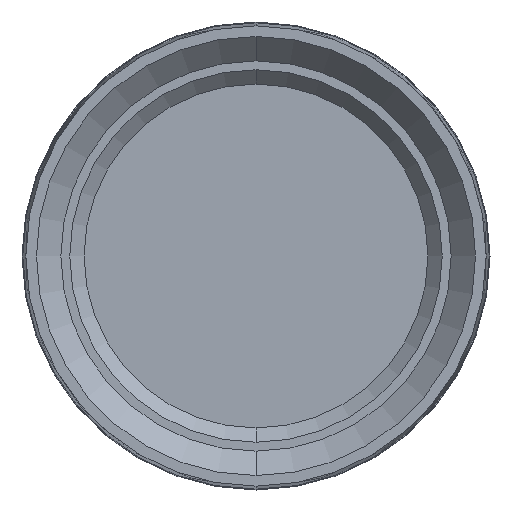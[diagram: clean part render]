
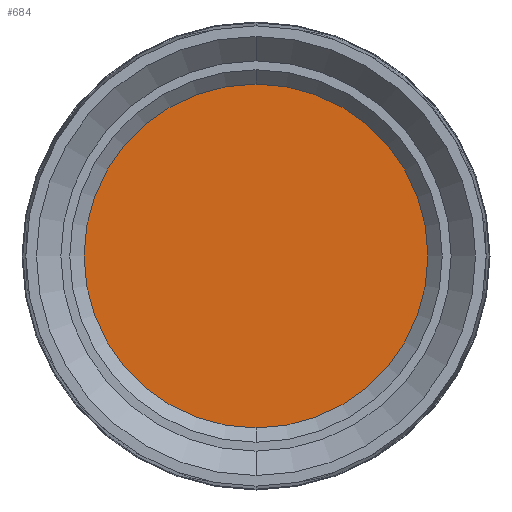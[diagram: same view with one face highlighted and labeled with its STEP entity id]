
A CAD part, front view. The second image highlights one B-rep face of the part: STEP entity #684.
In plain terms, the highlighted planar face has unit normal (0, -1, 0).
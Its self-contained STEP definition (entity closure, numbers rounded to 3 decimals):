
#25 = AXIS2_PLACEMENT_3D ( 'NONE', #287, #295, #442 ) ;
#47 = EDGE_CURVE ( 'NONE', #592, #662, #58, .T. ) ;
#58 = CIRCLE ( 'NONE', #25, 8.435 ) ;
#73 = DIRECTION ( 'NONE',  ( 0., -1., 0. ) ) ;
#81 = EDGE_LOOP ( 'NONE', ( #316, #537 ) ) ;
#132 = AXIS2_PLACEMENT_3D ( 'NONE', #234, #168, #221 ) ;
#168 = DIRECTION ( 'NONE',  ( 0., 1., 0. ) ) ;
#221 = DIRECTION ( 'NONE',  ( 0., 0., 1. ) ) ;
#234 = CARTESIAN_POINT ( 'NONE',  ( 0., 23.319, 0. ) ) ;
#254 = DIRECTION ( 'NONE',  ( 0., 0., 1. ) ) ;
#260 = CARTESIAN_POINT ( 'NONE',  ( 0., 23.319, -8.435 ) ) ;
#276 = CARTESIAN_POINT ( 'NONE',  ( 0., 23.319, 8.435 ) ) ;
#287 = CARTESIAN_POINT ( 'NONE',  ( 0., 23.319, 0. ) ) ;
#295 = DIRECTION ( 'NONE',  ( 0., -1., 0. ) ) ;
#302 = EDGE_CURVE ( 'NONE', #662, #592, #632, .T. ) ;
#316 = ORIENTED_EDGE ( 'NONE', *, *, #302, .T. ) ;
#366 = FACE_OUTER_BOUND ( 'NONE', #81, .T. ) ;
#442 = DIRECTION ( 'NONE',  ( 0., 0., 1. ) ) ;
#500 = AXIS2_PLACEMENT_3D ( 'NONE', #575, #73, #254 ) ;
#537 = ORIENTED_EDGE ( 'NONE', *, *, #47, .T. ) ;
#555 = PLANE ( 'NONE',  #132 ) ;
#575 = CARTESIAN_POINT ( 'NONE',  ( 0., 23.319, 0. ) ) ;
#592 = VERTEX_POINT ( 'NONE', #276 ) ;
#632 = CIRCLE ( 'NONE', #500, 8.435 ) ;
#662 = VERTEX_POINT ( 'NONE', #260 ) ;
#684 = ADVANCED_FACE ( 'NONE', ( #366 ), #555, .F. ) ;
